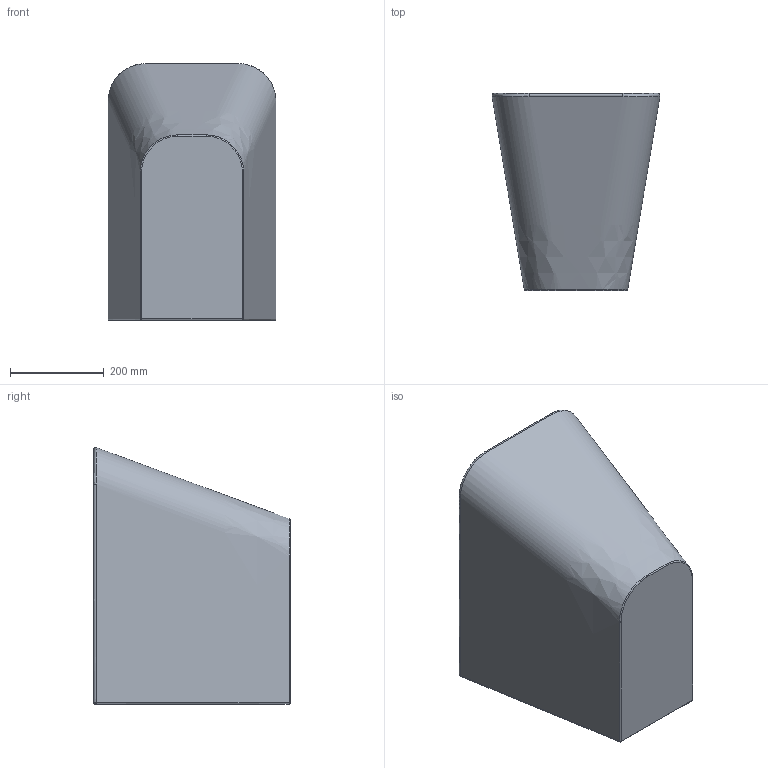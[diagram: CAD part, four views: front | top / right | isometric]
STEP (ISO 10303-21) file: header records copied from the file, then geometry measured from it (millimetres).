
FILE_DESCRIPTION (( 'STEP AP203' ), '1' );
FILE_NAME ('BUBIT000000M.STEP', '2019-01-29T16:21:21', ( '' ), ( '' ), 'SwSTEP 2.0', 'SolidWorks 2019', '' );
FILE_SCHEMA (( 'CONFIG_CONTROL_DESIGN' ));
Length unit declared in the file: millimetre
Products named in the file (1): BUBIT000000M
Bounding box: 358.2 x 420 x 547.81 mm (x, y, z)
Volume: 46879413 mm3; surface area: 1002604.1 mm2
Topology: 1 solids, 1 shells, 56 faces, 142 edges, 90 vertices
Faces by surface type: bspline 21, cylinder 16, plane 11, torus 4, cone 2, sphere 2
Entity records: 6889 total; most frequent: CARTESIAN_POINT 5614, ORIENTED_EDGE 280, DIRECTION 222, EDGE_CURVE 140, AXIS2_PLACEMENT_3D 95, VERTEX_POINT 90, EDGE_LOOP 60, CIRCLE 59
